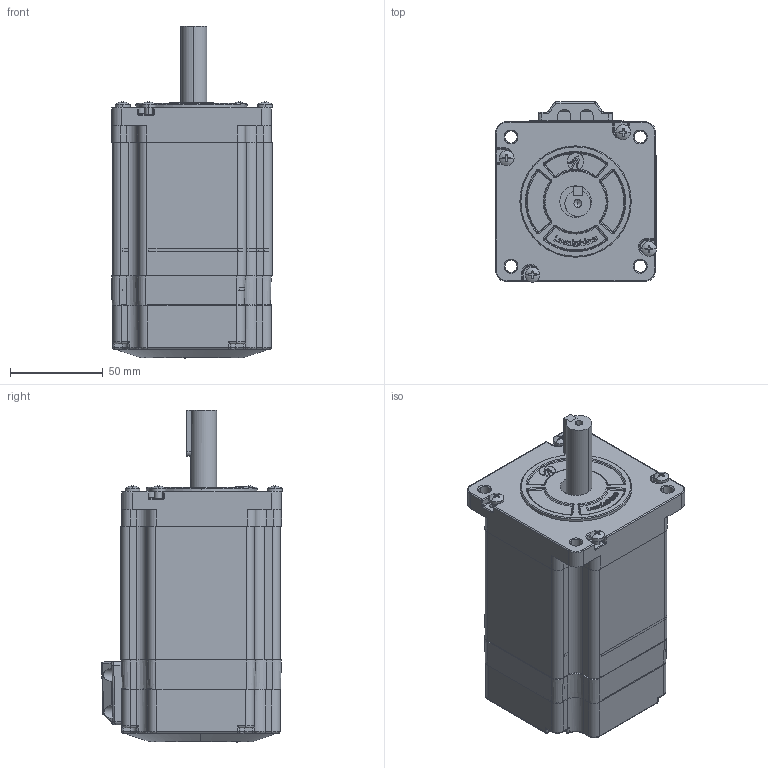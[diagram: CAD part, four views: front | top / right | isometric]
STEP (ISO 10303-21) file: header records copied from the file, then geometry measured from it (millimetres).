
FILE_DESCRIPTION (( 'STEP AP203' ), '1' );
FILE_NAME ('86CME45-BZ .STEP', '2018-07-02T01:00:24', ( 'Microsoft' ), ( 'China' ), 'SwSTEP 2.0', 'SolidWorks 2011', '' );
FILE_SCHEMA (( 'CONFIG_CONTROL_DESIGN' ));
Products named in the file (11): 86CME45-BZ  ; 电机压线块（开环闭口）常（后面出电源线）新设计参考创谊-7_Default; 后端盖（新PCB板常规出线）-7_Default; 前端盖开模2015-04-02带（LOGO无字版放槽里）-7_Default; 隅赽86HBM80C-1000-7_Default; 编码器罩密封垫（常）修模（加小孔定位）-7_Default; 编码器罩多压面(常）非防水（加高1.5mm）修模带LOGO1（开口版）（加柱子）-7_Default; 瑩种86萇儂-7_Default; 蛌粣86萇儂-7_Default; cross recessed pan head screws gb_GB_CROSS_SCREWS_TYPE1 M4X6-6  H type-N-7_Default; cross recessed pan head screws gb_GB_CROSS_SCREWS_TYPE1 M3X6-6  H type-N-7_Default
Assembly tree (16 placements, depth 2):
  86CME45-BZ  
    cross recessed pan head screws gb_GB_CROSS_SCREWS_TYPE1 M3X6-6  H type-N-7_Default  x4
    隅赽86HBM80C-1000-7_Default
    编码器罩密封垫（常）修模（加小孔定位）-7_Default
    cross recessed pan head screws gb_GB_CROSS_SCREWS_TYPE1 M4X6-6  H type-N-7_Default  x4
    电机压线块（开环闭口）常（后面出电源线）新设计参考创谊-7_Default
    后端盖（新PCB板常规出线）-7_Default
    编码器罩多压面(常）非防水（加高1.5mm）修模带LOGO1（开口版）（加柱子）-7_Default
    瑩种86萇儂-7_Default
    蛌粣86萇儂-7_Default
    前端盖开模2015-04-02带（LOGO无字版放槽里）-7_Default
Bounding box: 86.74 x 97.32 x 178.87 mm (x, y, z)
Volume: 607678.4 mm3; surface area: 156724.2 mm2
Topology: 26 solids, 26 shells, 1605 faces, 4247 edges, 2734 vertices
Faces by surface type: plane 660, cylinder 597, bspline 256, sphere 52, cone 40
Entity records: 55615 total; most frequent: CARTESIAN_POINT 19247, ORIENTED_EDGE 7644, DIRECTION 6893, EDGE_CURVE 3822, VERTEX_POINT 2467, AXIS2_PLACEMENT_3D 2424, VECTOR 2045, LINE 2045
